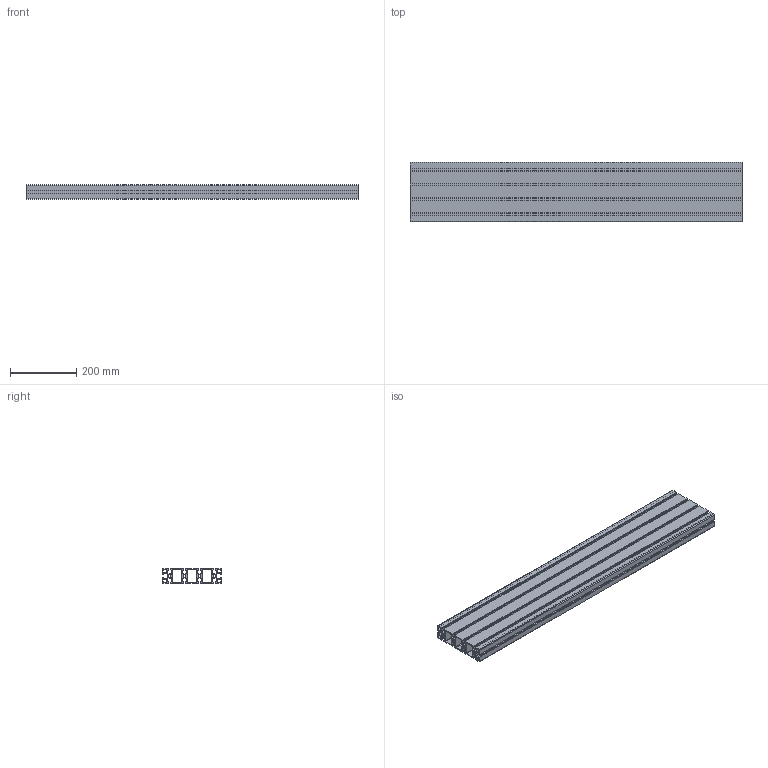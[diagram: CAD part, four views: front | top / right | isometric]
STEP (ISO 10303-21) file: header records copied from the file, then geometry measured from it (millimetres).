
FILE_DESCRIPTION (( 'STEP AP214' ), '1' );
FILE_NAME ('1.0214 45X180 musta 1000mm.STEP', '2026-03-18T07:11:51', ( '' ), ( '' ), 'SwSTEP 2.0', 'SolidWorks 2025', '' );
FILE_SCHEMA (( 'AUTOMOTIVE_DESIGN' ));
Length unit declared in the file: millimetre
Products named in the file (1): 1.0214 45X180 musta 1000mm
Bounding box: 1000 x 180 x 45 mm (x, y, z)
Volume: 2683727.6 mm3; surface area: 1500661.1 mm2
Topology: 1 solids, 1 shells, 313 faces, 933 edges, 622 vertices
Faces by surface type: plane 166, cylinder 147
Entity records: 10648 total; most frequent: CARTESIAN_POINT 1869, ORIENTED_EDGE 1866, DIRECTION 1855, EDGE_CURVE 933, VECTOR 639, LINE 639, VERTEX_POINT 622, AXIS2_PLACEMENT_3D 608
